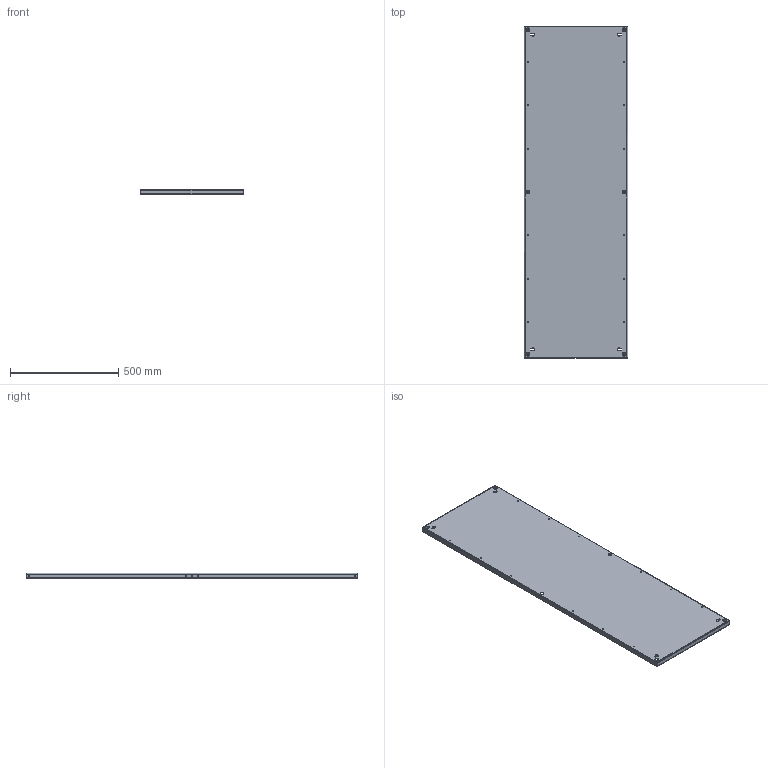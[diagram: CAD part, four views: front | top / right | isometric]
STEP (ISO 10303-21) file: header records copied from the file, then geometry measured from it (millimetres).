
FILE_DESCRIPTION(('STEP AP203'), '1');
FILE_NAME('Ïàíåëü ìîíòàæíàÿ Â1600õØ600 ìì OptiBox M 421769 ÊÝÀÇ', '', ('UNSPECIFIED'), ('UNSPECIFIED'), 'C3D Converter', 'C3D Toolkit', '');
FILE_SCHEMA(('CONFIG_CONTROL_DESIGN'));
Length unit declared in the file: millimetre
Bounding box: 478 x 1533 x 25 mm (x, y, z)
Volume: 1778670.6 mm3; surface area: 1789505.9 mm2
Topology: 1 solids, 1 shells, 128 faces, 314 edges, 188 vertices
Faces by surface type: cylinder 58, plane 54, bspline 16
Full cylindrical faces by diameter (mm): 4.6 x24, 7.3 x2, 9 x6, 18 x6
Entity records: 6032 total; most frequent: CARTESIAN_POINT 3037, ORIENTED_EDGE 552, DIRECTION 550, EDGE_CURVE 276, EDGE_LOOP 250, AXIS2_PLACEMENT_3D 197, VERTEX_POINT 188, FACE_BOUND 174
